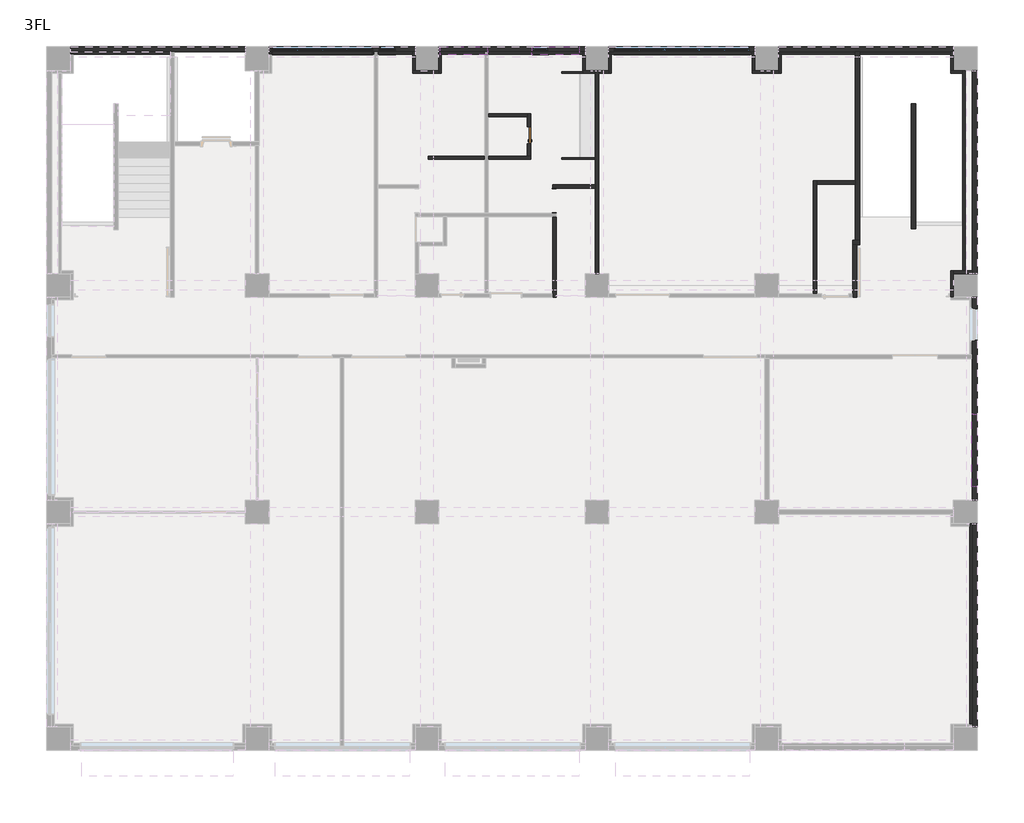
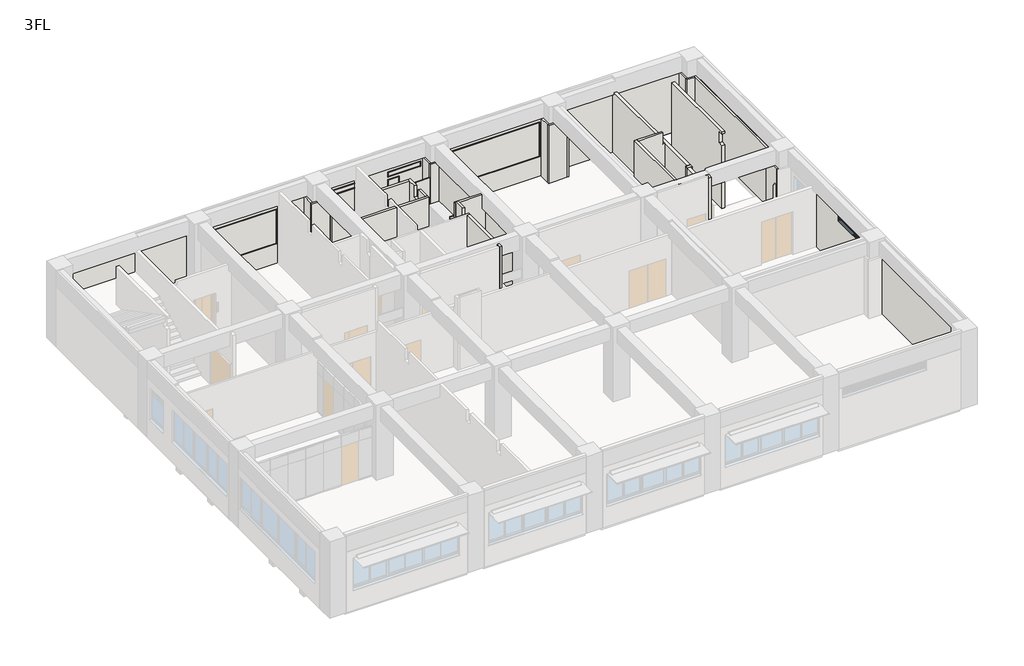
# One storey, part 3 of 6: 38 walls, 7 windows, 2 doors.
"""IFC4 building model written with IfcOpenShell, lengths in millimetres."""

from ifc_helpers import new_model, si_unit, frame, origin, place, context, project, spatial, polyline, outline, extrude, faceted_brep, transform, mapped, element, save
from components import door_cb1f44da, door_14d6dc4f, ag_06_22dadb70, ag_07_7ad97628, aw4_4580bdda, aw5_68b6661f, aw7_750fac0c, aw9_1008a672

model = new_model("IFC4")

# Units and contexts
model_context = context("Model", 3, world=origin())
ifc_project = project(units=[si_unit("LENGTHUNIT", "METRE", prefix="MILLI")], contexts=[model_context])

# Site, building, storey
site = spatial("IfcSite", under=ifc_project)
building = spatial("IfcBuilding", under=site)
storey = spatial("IfcBuildingStorey", under=building, Name="3FL", Elevation=8200.0)

# Doors
placement = place(None, origin())
door_shape = door_cb1f44da(model_context)
element("IfcDoor", 1, ObjectType="営_片開き扉 : SD7 600*2000", at=placement, inside=storey, context=model_context, shape_type="MappedRepresentation", body=[
    mapped(door_shape, transform((16600.0, 21310.0, 8200.0), x_axis=(0.0, 1.0, 0.0), y_axis=(-1.0, 0.0, 0.0), z_axis=(0.0, 0.0, 1.0))),
])
door_2_shape = door_14d6dc4f(model_context)
element("IfcDoor", 2, ObjectType="営_三方枠 : S1_850*2000", at=placement, inside=storey, context=model_context, shape_type="MappedRepresentation", body=[
    mapped(door_2_shape, transform((17500.0, 18990.25, 8200.0), x_axis=(0.0, 1.0, 0.0), y_axis=(-1.0, 0.0, 0.0), z_axis=(0.0, 0.0, 1.0))),
])

# Walls
element("IfcWall", 3, ObjectType="(外壁)RC150+20", at=placement, inside=storey, context=model_context, shape_type="Brep", body=[
    faceted_brep([(7420.0, 24250.0, 8100.0), (12580.0, 24250.0, 8100.0), (12580.0, 24250.0, 11350.0), (7420.0, 24250.0, 11350.0), (11310.0, 24250.0, 9265.0), (11310.0, 24250.0, 11120.0), (11890.0, 24250.0, 11120.0), (11890.0, 24250.0, 9265.0), (11090.0, 24250.0, 11120.0), (11090.0, 24250.0, 9265.0), (7510.0, 24250.0, 9265.0), (7510.0, 24250.0, 11120.0), (12580.0, 24420.0, 8100.0), (7420.0, 24420.0, 8100.0), (7420.0, 24420.0, 11350.0), (12580.0, 24420.0, 11350.0), (11340.0, 24420.0, 9175.0), (11860.0, 24420.0, 9175.0), (11860.0, 24420.0, 11095.0), (11340.0, 24420.0, 11095.0), (7540.0, 24420.0, 9175.0), (11060.0, 24420.0, 9175.0), (11060.0, 24420.0, 11095.0), (7540.0, 24420.0, 11095.0), (11310.0, 24290.0, 11120.0), (11310.0, 24290.0, 9265.0), (11890.0, 24290.0, 9265.0), (11890.0, 24290.0, 11120.0), (11880.0, 24290.0, 9265.0), (11320.0, 24290.0, 9265.0), (11320.0, 24290.0, 11115.0), (11880.0, 24290.0, 11115.0), (11320.0, 24290.0, 9195.0), (11320.0, 24360.0, 9184.2307692), (11320.0, 24360.0, 11115.0), (11880.0, 24360.0, 11115.0), (11880.0, 24360.0, 9184.2307692), (11880.0, 24290.0, 9195.0), (11860.0, 24360.0, 9184.2307692), (11340.0, 24360.0, 9184.2307692), (11340.0, 24360.0, 11095.0), (11860.0, 24360.0, 11095.0), (11090.0, 24290.0, 11120.0), (11090.0, 24290.0, 9265.0), (7510.0, 24290.0, 9265.0), (7510.0, 24290.0, 11120.0), (11080.0, 24290.0, 9265.0), (7520.0, 24290.0, 9265.0), (7520.0, 24290.0, 11115.0), (11080.0, 24290.0, 11115.0), (11080.0, 24360.0, 11115.0), (11080.0, 24360.0, 9184.2307692), (11080.0, 24290.0, 9195.0), (7520.0, 24290.0, 9195.0), (7520.0, 24360.0, 9184.2307692), (7520.0, 24360.0, 11115.0), (11060.0, 24360.0, 9184.2307692), (7540.0, 24360.0, 9184.2307692), (7540.0, 24360.0, 11095.0), (11060.0, 24360.0, 11095.0)], [[[0, 1, 2, 3], [4, 5, 6, 7], [8, 9, 10, 11]], [[12, 13, 14, 15], [16, 17, 18, 19], [20, 21, 22, 23]], [[0, 13, 12, 1]], [[24, 5, 4, 25]], [[26, 7, 6, 27]], [[25, 4, 7, 26, 28, 29]], [[24, 25, 29, 30, 31, 28, 26, 27]], [[5, 24, 27, 6]], [[30, 29, 32, 33, 34]], [[28, 31, 35, 36, 37]], [[33, 32, 37, 36, 38, 17, 16, 39]], [[34, 33, 39, 40, 41, 38, 36, 35]], [[31, 30, 34, 35]], [[29, 28, 37, 32]], [[39, 16, 19, 40]], [[17, 38, 41, 18]], [[41, 40, 19, 18]], [[42, 43, 9, 8]], [[44, 45, 11, 10]], [[9, 43, 46, 47, 44, 10]], [[43, 42, 45, 44, 47, 48, 49, 46]], [[42, 8, 11, 45]], [[46, 49, 50, 51, 52]], [[48, 47, 53, 54, 55]], [[52, 51, 56, 21, 20, 57, 54, 53]], [[51, 50, 55, 54, 57, 58, 59, 56]], [[49, 48, 55, 50]], [[47, 46, 52, 53]], [[21, 56, 59, 22]], [[57, 20, 23, 58]], [[59, 58, 23, 22]], [[13, 0, 3, 14]], [[1, 12, 15, 2]], [[3, 2, 15, 14]]]),
    faceted_brep([(13420.0, 24250.0, 8100.0), (18580.0, 24250.0, 8100.0), (18580.0, 24250.0, 11350.0), (13420.0, 24250.0, 11350.0), (16710.0, 24250.0, 9265.0), (16710.0, 24250.0, 10720.0), (17290.0, 24250.0, 10720.0), (17290.0, 24250.0, 9265.0), (18380.0, 24250.0, 11135.0), (18380.0, 24250.0, 10865.0), (16700.0, 24250.0, 10865.0), (16700.0, 24250.0, 11135.0), (15140.0, 24250.0, 11135.0), (15140.0, 24250.0, 10865.0), (13460.0, 24250.0, 10865.0), (13460.0, 24250.0, 11135.0), (18580.0, 24420.0, 8100.0), (13420.0, 24420.0, 8100.0), (13420.0, 24420.0, 11350.0), (18580.0, 24420.0, 11350.0), (16740.0, 24420.0, 9175.0), (17260.0, 24420.0, 9175.0), (17260.0, 24420.0, 10695.0), (16740.0, 24420.0, 10695.0), (16730.0, 24420.0, 10775.0), (18350.0, 24420.0, 10775.0), (18350.0, 24420.0, 11110.0), (16730.0, 24420.0, 11110.0), (13490.0, 24420.0, 10775.0), (15110.0, 24420.0, 10775.0), (15110.0, 24420.0, 11110.0), (13490.0, 24420.0, 11110.0), (16710.0, 24290.0, 10720.0), (16710.0, 24290.0, 9265.0), (17290.0, 24290.0, 9265.0), (17290.0, 24290.0, 10720.0), (17280.0, 24290.0, 9265.0), (16720.0, 24290.0, 9265.0), (16720.0, 24290.0, 10715.0), (17280.0, 24290.0, 10715.0), (16720.0, 24290.0, 9195.0), (16720.0, 24360.0, 9184.2307692), (16720.0, 24360.0, 10715.0), (17280.0, 24360.0, 10715.0), (17280.0, 24360.0, 9184.2307692), (17280.0, 24290.0, 9195.0), (17260.0, 24360.0, 9184.2307692), (16740.0, 24360.0, 9184.2307692), (16740.0, 24360.0, 10695.0), (17260.0, 24360.0, 10695.0), (18380.0, 24290.0, 11135.0), (18380.0, 24290.0, 10865.0), (16700.0, 24290.0, 10865.0), (16700.0, 24290.0, 11135.0), (18370.0, 24290.0, 10865.0), (16710.0, 24290.0, 10865.0), (16710.0, 24290.0, 11130.0), (18370.0, 24290.0, 11130.0), (18370.0, 24360.0, 11130.0), (18370.0, 24360.0, 10784.2307692), (18370.0, 24290.0, 10795.0), (16710.0, 24290.0, 10795.0), (16710.0, 24360.0, 10784.2307692), (16710.0, 24360.0, 11130.0), (18350.0, 24360.0, 10784.2307692), (16730.0, 24360.0, 10784.2307692), (16730.0, 24360.0, 11110.0), (18350.0, 24360.0, 11110.0), (15140.0, 24290.0, 11135.0), (15140.0, 24290.0, 10865.0), (13460.0, 24290.0, 10865.0), (13460.0, 24290.0, 11135.0), (15130.0, 24290.0, 10865.0), (13470.0, 24290.0, 10865.0), (13470.0, 24290.0, 11130.0), (15130.0, 24290.0, 11130.0), (15130.0, 24360.0, 11130.0), (15130.0, 24360.0, 10784.2307692), (15130.0, 24290.0, 10795.0), (13470.0, 24290.0, 10795.0), (13470.0, 24360.0, 10784.2307692), (13470.0, 24360.0, 11130.0), (15110.0, 24360.0, 10784.2307692), (13490.0, 24360.0, 10784.2307692), (13490.0, 24360.0, 11110.0), (15110.0, 24360.0, 11110.0)], [[[0, 1, 2, 3], [4, 5, 6, 7], [8, 9, 10, 11], [12, 13, 14, 15]], [[16, 17, 18, 19], [20, 21, 22, 23], [24, 25, 26, 27], [28, 29, 30, 31]], [[0, 17, 16, 1]], [[32, 5, 4, 33]], [[34, 7, 6, 35]], [[33, 4, 7, 34, 36, 37]], [[32, 33, 37, 38, 39, 36, 34, 35]], [[5, 32, 35, 6]], [[38, 37, 40, 41, 42]], [[36, 39, 43, 44, 45]], [[41, 40, 45, 44, 46, 21, 20, 47]], [[42, 41, 47, 48, 49, 46, 44, 43]], [[39, 38, 42, 43]], [[37, 36, 45, 40]], [[47, 20, 23, 48]], [[21, 46, 49, 22]], [[49, 48, 23, 22]], [[50, 51, 9, 8]], [[52, 53, 11, 10]], [[51, 54, 55, 52, 10, 9]], [[51, 50, 53, 52, 55, 56, 57, 54]], [[53, 50, 8, 11]], [[54, 57, 58, 59, 60]], [[56, 55, 61, 62, 63]], [[60, 59, 64, 25, 24, 65, 62, 61]], [[59, 58, 63, 62, 65, 66, 67, 64]], [[57, 56, 63, 58]], [[55, 54, 60, 61]], [[25, 64, 67, 26]], [[65, 24, 27, 66]], [[67, 66, 27, 26]], [[68, 69, 13, 12]], [[70, 71, 15, 14]], [[13, 69, 72, 73, 70, 14]], [[69, 68, 71, 70, 73, 74, 75, 72]], [[68, 12, 15, 71]], [[72, 75, 76, 77, 78]], [[74, 73, 79, 80, 81]], [[78, 77, 82, 29, 28, 83, 80, 79]], [[77, 76, 81, 80, 83, 84, 85, 82]], [[75, 74, 81, 76]], [[73, 72, 78, 79]], [[29, 82, 85, 30]], [[83, 28, 31, 84]], [[85, 84, 31, 30]], [[17, 0, 3, 18]], [[1, 16, 19, 2]], [[3, 2, 19, 18]]]),
    faceted_brep([(19420.0, 24250.0, 8100.0), (24580.0, 24250.0, 8100.0), (24580.0, 24250.0, 11350.0), (19420.0, 24250.0, 11350.0), (24410.0, 24250.0, 11120.0), (24410.0, 24250.0, 9265.0), (19590.0, 24250.0, 9265.0), (19590.0, 24250.0, 11120.0), (24580.0, 24420.0, 8100.0), (19420.0, 24420.0, 8100.0), (19420.0, 24420.0, 11350.0), (24580.0, 24420.0, 11350.0), (19620.0, 24420.0, 9175.0), (24380.0, 24420.0, 9175.0), (24380.0, 24420.0, 11095.0), (19620.0, 24420.0, 11095.0), (24410.0, 24290.0, 11120.0), (24410.0, 24290.0, 9265.0), (19590.0, 24290.0, 9265.0), (19590.0, 24290.0, 11120.0), (24400.0, 24290.0, 9265.0), (19600.0, 24290.0, 9265.0), (19600.0, 24290.0, 11115.0), (24400.0, 24290.0, 11115.0), (24400.0, 24360.0, 11115.0), (24400.0, 24360.0, 9184.2307692), (24400.0, 24290.0, 9195.0), (19600.0, 24290.0, 9195.0), (19600.0, 24360.0, 9184.2307692), (19600.0, 24360.0, 11115.0), (24380.0, 24360.0, 9184.2307692), (19620.0, 24360.0, 9184.2307692), (19620.0, 24360.0, 11095.0), (24380.0, 24360.0, 11095.0)], [[[0, 1, 2, 3], [4, 5, 6, 7]], [[8, 9, 10, 11], [12, 13, 14, 15]], [[0, 9, 8, 1]], [[16, 17, 5, 4]], [[18, 19, 7, 6]], [[5, 17, 20, 21, 18, 6]], [[17, 16, 19, 18, 21, 22, 23, 20]], [[16, 4, 7, 19]], [[20, 23, 24, 25, 26]], [[22, 21, 27, 28, 29]], [[26, 25, 30, 13, 12, 31, 28, 27]], [[25, 24, 29, 28, 31, 32, 33, 30]], [[23, 22, 29, 24]], [[21, 20, 26, 27]], [[13, 30, 33, 14]], [[31, 12, 15, 32]], [[33, 32, 15, 14]], [[9, 0, 3, 10]], [[1, 8, 11, 2]], [[3, 2, 11, 10]]]),
    faceted_brep([(25420.0, 24250.0, 8100.0), (31580.0, 24250.0, 8100.0), (31580.0, 24250.0, 11350.0), (25420.0, 24250.0, 11350.0), (31580.0, 24420.0, 8100.0), (25420.0, 24420.0, 8100.0), (25420.0, 24420.0, 11350.0), (31580.0, 24420.0, 11350.0)], [[[0, 1, 2, 3]], [[4, 5, 6, 7]], [[0, 5, 4, 1]], [[5, 0, 3, 6]], [[1, 4, 7, 2]], [[3, 2, 7, 6]]]),
    faceted_brep([(420.0, 24250.0, 8100.0), (6580.0, 24250.0, 8100.0), (6580.0, 24250.0, 11350.0), (420.0, 24250.0, 11350.0), (6580.0, 24420.0, 8100.0), (420.0, 24420.0, 8100.0), (420.0, 24420.0, 11350.0), (6580.0, 24420.0, 11350.0)], [[[0, 1, 2, 3]], [[4, 5, 6, 7]], [[4, 1, 0, 5]], [[1, 4, 7, 2]], [[5, 0, 3, 6]], [[3, 2, 7, 6]]]),
])
element("IfcWall", 4, ObjectType="(外壁)RC150+20", at=placement, inside=storey, context=model_context, shape_type="Brep", body=[
    faceted_brep([(32250.0, 7580.0, 8100.0), (32250.0, 420.0, 8100.0), (32250.0, 420.0, 11300.0), (32250.0, 7580.0, 11300.0), (32420.0, 420.0, 8100.0), (32420.0, 7580.0, 8100.0), (32420.0, 7580.0, 11300.0), (32420.0, 420.0, 11300.0), (32325.0, 420.0, 8100.0), (32325.0, 7580.0, 8100.0)], [[[0, 1, 2, 3]], [[4, 5, 6, 7]], [[4, 8, 1, 0, 9, 5]], [[1, 8, 4, 7, 2]], [[5, 9, 0, 3, 6]], [[3, 2, 7, 6]]]),
    faceted_brep([(32250.0, 15580.0, 8100.0), (32250.0, 8420.0, 8100.0), (32250.0, 8420.0, 11300.0), (32250.0, 15580.0, 11300.0), (32250.0, 14027.5, 10920.0), (32250.0, 14027.5, 9265.0), (32250.0, 15207.5, 9265.0), (32250.0, 15207.5, 10920.0), (32250.0, 8890.0, 11285.0), (32250.0, 8890.0, 10765.0), (32250.0, 11470.0, 10765.0), (32250.0, 11470.0, 11285.0), (32420.0, 8420.0, 8100.0), (32420.0, 15580.0, 8100.0), (32420.0, 15580.0, 11300.0), (32420.0, 8420.0, 11300.0), (32420.0, 15177.5, 9175.0), (32420.0, 14057.5, 9175.0), (32420.0, 14057.5, 10895.0), (32420.0, 15177.5, 10895.0), (32420.0, 11440.0, 10675.0), (32420.0, 8920.0, 10675.0), (32420.0, 8920.0, 11260.0), (32420.0, 11440.0, 11260.0), (32325.0, 8420.0, 8100.0), (32325.0, 15580.0, 8100.0), (32290.0, 14027.5, 10920.0), (32290.0, 14027.5, 9265.0), (32290.0, 15207.5, 9265.0), (32290.0, 15207.5, 10920.0), (32290.0, 14037.5, 9265.0), (32290.0, 15197.5, 9265.0), (32290.0, 15197.5, 10915.0), (32290.0, 14037.5, 10915.0), (32360.0, 14037.5, 10915.0), (32360.0, 14037.5, 9184.2307692), (32290.0, 14037.5, 9195.0), (32290.0, 15197.5, 9195.0), (32360.0, 15197.5, 9184.2307692), (32360.0, 15197.5, 10915.0), (32360.0, 14057.5, 9184.2307692), (32360.0, 15177.5, 9184.2307692), (32360.0, 15177.5, 10895.0), (32360.0, 14057.5, 10895.0), (32290.0, 8890.0, 11285.0), (32290.0, 8890.0, 10765.0), (32290.0, 11470.0, 10765.0), (32290.0, 11470.0, 11285.0), (32290.0, 8900.0, 10765.0), (32290.0, 11460.0, 10765.0), (32290.0, 11460.0, 11280.0), (32290.0, 8900.0, 11280.0), (32360.0, 8900.0, 11280.0), (32360.0, 8900.0, 10684.2307692), (32290.0, 8900.0, 10695.0), (32290.0, 11460.0, 10695.0), (32360.0, 11460.0, 10684.2307692), (32360.0, 11460.0, 11280.0), (32360.0, 8920.0, 10684.2307692), (32360.0, 11440.0, 10684.2307692), (32360.0, 11440.0, 11260.0), (32360.0, 8920.0, 11260.0)], [[[0, 1, 2, 3], [4, 5, 6, 7], [8, 9, 10, 11]], [[12, 13, 14, 15], [16, 17, 18, 19], [20, 21, 22, 23]], [[12, 24, 1, 0, 25, 13]], [[26, 27, 5, 4]], [[28, 29, 7, 6]], [[5, 27, 30, 31, 28, 6]], [[27, 26, 29, 28, 31, 32, 33, 30]], [[26, 4, 7, 29]], [[30, 33, 34, 35, 36]], [[32, 31, 37, 38, 39]], [[36, 35, 40, 17, 16, 41, 38, 37]], [[35, 34, 39, 38, 41, 42, 43, 40]], [[33, 32, 39, 34]], [[31, 30, 36, 37]], [[17, 40, 43, 18]], [[41, 16, 19, 42]], [[43, 42, 19, 18]], [[1, 24, 12, 15, 2]], [[13, 25, 0, 3, 14]], [[3, 2, 15, 14]], [[44, 45, 9, 8]], [[46, 47, 11, 10]], [[9, 45, 48, 49, 46, 10]], [[45, 44, 47, 46, 49, 50, 51, 48]], [[44, 8, 11, 47]], [[48, 51, 52, 53, 54]], [[50, 49, 55, 56, 57]], [[54, 53, 58, 21, 20, 59, 56, 55]], [[53, 52, 57, 56, 59, 60, 61, 58]], [[51, 50, 57, 52]], [[49, 48, 54, 55]], [[21, 58, 61, 22]], [[59, 20, 23, 60]], [[61, 60, 23, 22]]]),
    faceted_brep([(32250.0, 23580.0, 8100.0), (32250.0, 16420.0, 8100.0), (32250.0, 16420.0, 11300.0), (32250.0, 23580.0, 11300.0), (32420.0, 16420.0, 8100.0), (32420.0, 23580.0, 8100.0), (32420.0, 23580.0, 11300.0), (32420.0, 16420.0, 11300.0), (32325.0, 16420.0, 8100.0), (32325.0, 23580.0, 8100.0)], [[[0, 1, 2, 3]], [[4, 5, 6, 7]], [[4, 8, 1, 0, 9, 5]], [[1, 8, 4, 7, 2]], [[5, 9, 0, 3, 6]], [[3, 2, 7, 6]]]),
])
element("IfcWall", 5, ObjectType="(内壁)W4", at=placement, inside=storey, context=model_context, shape_type="Brep", body=[
    faceted_brep([(18940.0, 23580.0, 8200.0), (18940.0, 23490.0, 8200.0), (18940.0, 19550.0, 8200.0), (18940.0, 19430.0, 8200.0), (18940.0, 16420.0, 8200.0), (18940.0, 16420.0, 11300.0), (18940.0, 19430.0, 11300.0), (18940.0, 19550.0, 11300.0), (18940.0, 23490.0, 11300.0), (18940.0, 23580.0, 11300.0), (19060.0, 16420.0, 8200.0), (19060.0, 23490.0, 8200.0), (19060.0, 23580.0, 8200.0), (19060.0, 23580.0, 11300.0), (19060.0, 23490.0, 11300.0), (19060.0, 16420.0, 11300.0)], [[[0, 1, 2, 3, 4, 5, 6, 7, 8, 9]], [[10, 11, 12, 13, 14, 15]], [[10, 4, 3, 2, 1, 0, 12, 11]], [[4, 10, 15, 5]], [[12, 0, 9, 13]], [[9, 8, 7, 6, 5, 15, 14, 13]]]),
])
element("IfcWall", 6, ObjectType="(内壁)W3", at=placement, inside=storey, context=model_context, shape_type="Brep", body=[
    faceted_brep([(26640.0, 19695.0, 8200.0), (26640.0, 15700.0, 8200.0), (26640.0, 15700.0, 12050.0), (26640.0, 15825.0, 12050.0), (26640.0, 15825.0, 11350.0), (26640.0, 16175.0, 11350.0), (26640.0, 16175.0, 12050.0), (26640.0, 19695.0, 12050.0), (26760.0, 15700.0, 8200.0), (26760.0, 19575.0, 8200.0), (26760.0, 19695.0, 8200.0), (26760.0, 19695.0, 12050.0), (26760.0, 19575.0, 12050.0), (26760.0, 16175.0, 12050.0), (26760.0, 16175.0, 11350.0), (26760.0, 15825.0, 11350.0), (26760.0, 15825.0, 12050.0), (26760.0, 15700.0, 12050.0)], [[[0, 1, 2, 3, 4, 5, 6, 7]], [[8, 9, 10, 11, 12, 13, 14, 15, 16, 17]], [[1, 0, 10, 9, 8]], [[11, 7, 6, 13, 12]], [[2, 17, 16, 3]], [[0, 7, 11, 10]], [[2, 1, 8, 17]], [[15, 4, 3, 16]], [[4, 15, 14, 5]], [[5, 14, 13, 6]]]),
])
element("IfcWall", 7, ObjectType="(内壁)W3", at=placement, inside=storey, context=model_context, shape_type="SweptSolid", body=[
    extrude(outline(polyline([(8200.0, 26760.0), (8200.0, 28125.0), (11450.0, 28125.0), (11450.0, 28024.0), (12050.0, 28024.0), (12050.0, 26760.0), (8200.0, 26760.0)])), frame((0.0, 19575.0, 0.0), z_axis=(0.0, 1.0, 0.0), x_axis=(0.0, 0.0, 1.0)), (0.0, 0.0, 1.0), 120.0),
])
element("IfcWall", 8, ObjectType="(内壁)150_RC", at=placement, inside=storey, context=model_context, shape_type="Brep", body=[
    faceted_brep([(28175.0, 15580.0, 8200.0), (28175.0, 17445.0, 8200.0), (28175.0, 17445.0, 11450.0), (28175.0, 16175.0, 11450.0), (28175.0, 16175.0, 11350.0), (28175.0, 15825.0, 11350.0), (28175.0, 15825.0, 11450.0), (28175.0, 15825.0, 12050.0), (28175.0, 15580.0, 12050.0), (28025.0, 17445.0, 8200.0), (28025.0, 15700.0, 8200.0), (28025.0, 15580.0, 8200.0), (28025.0, 15580.0, 12050.0), (28025.0, 15825.0, 12050.0), (28025.0, 15825.0, 11450.0), (28025.0, 15825.0, 11350.0), (28025.0, 16175.0, 11350.0), (28025.0, 16175.0, 11450.0), (28025.0, 17445.0, 11450.0)], [[[0, 1, 2, 3, 4, 5, 6, 7, 8]], [[9, 10, 11, 12, 13, 14, 15, 16, 17, 18]], [[1, 0, 11, 10, 9]], [[8, 7, 13, 12]], [[1, 9, 18, 2]], [[5, 15, 14, 13, 7, 6]], [[15, 5, 4, 16]], [[16, 4, 3, 17]], [[3, 2, 18, 17]], [[0, 8, 12, 11]]]),
])
element("IfcWall", 9, ObjectType="(内壁)150_RC", at=placement, inside=storey, context=model_context, shape_type="Brep", body=[
    faceted_brep([(28025.0, 17445.0, 8200.0), (28175.0, 17445.0, 8200.0), (28275.0, 17445.0, 8200.0), (28275.0, 17445.0, 11450.0), (28175.0, 17445.0, 11450.0), (28025.0, 17445.0, 11450.0), (28275.0, 17595.0, 8200.0), (28125.0, 17595.0, 8200.0), (28025.0, 17595.0, 8200.0), (28025.0, 17595.0, 11450.0), (28125.0, 17595.0, 11450.0), (28275.0, 17595.0, 11450.0)], [[[0, 1, 2, 3, 4, 5]], [[6, 7, 8, 9, 10, 11]], [[2, 1, 0, 8, 7, 6]], [[8, 0, 5, 9]], [[2, 6, 11, 3]], [[5, 4, 3, 11, 10, 9]]]),
])
element("IfcWall", 10, ObjectType="(内壁)150_RC", at=placement, inside=storey, context=model_context, shape_type="Brep", body=[
    faceted_brep([(28275.0, 17595.0, 8200.0), (28275.0, 24160.0, 8200.0), (28275.0, 24250.0, 8200.0), (28275.0, 24250.0, 11350.0), (28275.0, 24160.0, 11350.0), (28275.0, 24050.0, 11350.0), (28275.0, 24050.0, 11450.0), (28275.0, 17595.0, 11450.0), (28125.0, 24250.0, 8200.0), (28125.0, 24160.0, 8200.0), (28125.0, 19695.0, 8200.0), (28125.0, 19575.0, 8200.0), (28125.0, 17595.0, 8200.0), (28125.0, 17595.0, 11450.0), (28125.0, 19575.0, 11450.0), (28125.0, 19695.0, 11450.0), (28125.0, 24050.0, 11450.0), (28125.0, 24050.0, 11350.0), (28125.0, 24160.0, 11350.0), (28125.0, 24250.0, 11350.0)], [[[0, 1, 2, 3, 4, 5, 6, 7]], [[8, 9, 10, 11, 12, 13, 14, 15, 16, 17, 18, 19]], [[2, 1, 0, 12, 11, 10, 9, 8]], [[13, 7, 6, 16, 15, 14]], [[0, 7, 13, 12]], [[2, 8, 19, 3]], [[5, 17, 16, 6]], [[17, 5, 4, 3, 19, 18]]]),
])
element("IfcWall", 11, ObjectType="(内壁)W4", at=placement, inside=storey, context=model_context, shape_type="Brep", body=[
    faceted_brep([(17440.0, 18430.0, 8200.0), (17440.0, 15700.0, 8200.0), (17440.0, 15580.0, 8200.0), (17440.0, 15580.0, 12050.0), (17440.0, 15700.0, 12050.0), (17440.0, 15825.0, 12050.0), (17440.0, 15825.0, 11350.0), (17440.0, 16175.0, 11350.0), (17440.0, 16175.0, 12050.0), (17440.0, 18430.0, 12050.0), (17560.0, 15580.0, 8200.0), (17560.0, 18430.0, 8200.0), (17560.0, 18430.0, 12050.0), (17560.0, 16175.0, 12050.0), (17560.0, 16175.0, 11350.0), (17560.0, 15825.0, 11350.0), (17560.0, 15825.0, 12050.0), (17560.0, 15580.0, 12050.0)], [[[0, 1, 2, 3, 4, 5, 6, 7, 8, 9]], [[10, 11, 12, 13, 14, 15, 16, 17]], [[2, 1, 0, 11, 10]], [[12, 9, 8, 13]], [[3, 17, 16, 5, 4]], [[0, 9, 12, 11]], [[15, 6, 5, 16]], [[6, 15, 14, 7]], [[7, 14, 13, 8]], [[3, 2, 10, 17]]]),
])
element("IfcWall", 12, ObjectType="(内壁)W4", at=placement, inside=storey, context=model_context, shape_type="SweptSolid", body=[
    extrude(outline(polyline([(8200.0, 13040.0), (8200.0, 15040.0), (12050.0, 15040.0), (12050.0, 13225.0), (11300.0, 13225.0), (11300.0, 13040.0), (8200.0, 13040.0)])), frame((0.0, 20450.0, 0.0), z_axis=(0.0, 1.0, 0.0), x_axis=(0.0, 0.0, 1.0)), (0.0, 0.0, 1.0), 120.0),
])
element("IfcWall", 13, ObjectType="(内壁)W3", at=placement, inside=storey, context=model_context, shape_type="Brep", body=[
    faceted_brep([(16660.0, 20570.0, 12050.0), (16660.0, 20570.0, 8200.0), (16660.0, 21010.0, 8200.0), (16660.0, 21010.0, 10200.0), (16660.0, 21610.0, 10200.0), (16660.0, 21610.0, 8200.0), (16660.0, 22070.0, 8200.0), (16660.0, 22070.0, 12050.0), (16660.0, 21515.0, 12050.0), (16660.0, 21515.0, 11450.0), (16660.0, 21165.0, 11450.0), (16660.0, 21165.0, 12050.0), (16540.0, 20570.0, 8200.0), (16540.0, 20570.0, 12050.0), (16540.0, 21165.0, 12050.0), (16540.0, 21165.0, 11450.0), (16540.0, 21515.0, 11450.0), (16540.0, 21515.0, 12050.0), (16540.0, 21950.0, 12050.0), (16540.0, 22070.0, 12050.0), (16540.0, 22070.0, 8200.0), (16540.0, 21950.0, 8200.0), (16540.0, 21610.0, 8200.0), (16540.0, 21610.0, 10200.0), (16540.0, 21010.0, 10200.0), (16540.0, 21010.0, 8200.0)], [[[0, 1, 2, 3, 4, 5, 6, 7, 8, 9, 10, 11]], [[12, 13, 14, 15, 16, 17, 18, 19, 20, 21, 22, 23, 24, 25]], [[1, 12, 25, 2]], [[20, 6, 5, 22, 21]], [[13, 0, 11, 14]], [[7, 19, 18, 17, 8]], [[1, 0, 13, 12]], [[7, 6, 20, 19]], [[25, 24, 3, 2]], [[23, 22, 5, 4]], [[24, 23, 4, 3]], [[10, 15, 14, 11]], [[15, 10, 9, 16]], [[16, 9, 8, 17]]]),
])
element("IfcWall", 14, ObjectType="(内壁)W3", at=placement, inside=storey, context=model_context, shape_type="SweptSolid", body=[
    extrude(outline(polyline([(15160.0, 22070.0), (16540.0, 22070.0), (16540.0, 21950.0), (15160.0, 21950.0), (15160.0, 22070.0)])), frame((0.0, 0.0, 8200.0), z_axis=(0.0, 0.0, 1.0), x_axis=(1.0, 0.0, 0.0)), (0.0, 0.0, 1.0), 3850.0),
])
element("IfcWall", 15, ObjectType="(内壁)W4", at=placement, inside=storey, context=model_context, shape_type="Brep", body=[
    faceted_brep([(17440.0, 19430.0, 8200.0), (17560.0, 19430.0, 8200.0), (18940.0, 19430.0, 8200.0), (18940.0, 19430.0, 11300.0), (18775.0, 19430.0, 11300.0), (18775.0, 19430.0, 12050.0), (17440.0, 19430.0, 12050.0), (18940.0, 19550.0, 8200.0), (17440.0, 19550.0, 8200.0), (17440.0, 19550.0, 12050.0), (18775.0, 19550.0, 12050.0), (18775.0, 19550.0, 11300.0), (18940.0, 19550.0, 11300.0)], [[[0, 1, 2, 3, 4, 5, 6]], [[7, 8, 9, 10, 11, 12]], [[2, 1, 0, 8, 7]], [[9, 6, 5, 10]], [[2, 7, 12, 3]], [[11, 4, 3, 12]], [[4, 11, 10, 5]], [[0, 6, 9, 8]]]),
])
element("IfcWall", 16, ObjectType="(内壁)120_部屋境界OFF", at=placement, inside=storey, context=model_context, shape_type="Brep", body=[
    faceted_brep([(17560.0, 18550.0, 8200.0), (17560.0, 18555.25, 8200.0), (17560.0, 18555.25, 10210.0), (17560.0, 19425.25, 10210.0), (17560.0, 19425.25, 8200.0), (17560.0, 19430.0, 8200.0), (17560.0, 19430.0, 12150.0), (17560.0, 18845.0, 12150.0), (17560.0, 18845.0, 11450.0), (17560.0, 18550.0, 11450.0), (17440.0, 18555.25, 8200.0), (17440.0, 18550.0, 8200.0), (17440.0, 18550.0, 11450.0), (17440.0, 18845.0, 11450.0), (17440.0, 18845.0, 12150.0), (17440.0, 19430.0, 12150.0), (17440.0, 19430.0, 12050.0), (17440.0, 19430.0, 8200.0), (17440.0, 19425.25, 8200.0), (17440.0, 19425.25, 10210.0), (17440.0, 18555.25, 10210.0)], [[[0, 1, 2, 3, 4, 5, 6, 7, 8, 9]], [[10, 11, 12, 13, 14, 15, 16, 17, 18, 19, 20]], [[11, 10, 1, 0]], [[5, 4, 18, 17]], [[6, 15, 14, 7]], [[11, 0, 9, 12]], [[6, 5, 17, 16, 15]], [[20, 2, 1, 10]], [[2, 20, 19, 3]], [[3, 19, 18, 4]], [[8, 13, 12, 9]], [[13, 8, 7, 14]]]),
])
element("IfcWall", 17, ObjectType="(内壁)W3", at=placement, inside=storey, context=model_context, shape_type="Brep", body=[
    faceted_brep([(15160.0, 20450.0, 8200.0), (16660.0, 20450.0, 8200.0), (16660.0, 20450.0, 12050.0), (15160.0, 20450.0, 12050.0), (15160.0, 20570.0, 8200.0), (15160.0, 20570.0, 12050.0), (16540.0, 20570.0, 12050.0), (16660.0, 20570.0, 12050.0), (16660.0, 20570.0, 8200.0), (16540.0, 20570.0, 8200.0)], [[[0, 1, 2, 3]], [[4, 5, 6, 7, 8, 9]], [[1, 0, 4, 9, 8]], [[3, 2, 7, 6, 5]], [[2, 1, 8, 7]], [[0, 3, 5, 4]]]),
])
element("IfcWall", 18, ObjectType="(内壁)ブース壁", at=placement, inside=storey, context=model_context, shape_type="SweptSolid", body=[
    extrude(outline(polyline([(17760.0, 20500.0), (18940.0, 20500.0), (18940.0, 20450.0), (17760.0, 20450.0), (17760.0, 20500.0)])), frame((0.0, 0.0, 8200.0), z_axis=(0.0, 0.0, 1.0), x_axis=(1.0, 0.0, 0.0)), (0.0, 0.0, 1.0), 2400.0),
])
element("IfcWall", 19, ObjectType="(内壁)ブース壁", at=placement, inside=storey, context=model_context, shape_type="SweptSolid", body=[
    extrude(outline(polyline([(17750.0, 23540.0), (18490.0, 23540.0), (18490.0, 23490.0), (17750.0, 23490.0), (17750.0, 23540.0)])), frame((0.0, 0.0, 8200.0), z_axis=(0.0, 0.0, 1.0), x_axis=(1.0, 0.0, 0.0)), (0.0, 0.0, 1.0), 2400.0),
])
element("IfcWall", 20, ObjectType="(内壁)150_RC", at=placement, inside=storey, context=model_context, shape_type="Brep", body=[
    faceted_brep([(30105.0, 22410.0, 8200.0), (30105.0, 18000.0, 8200.0), (30105.0, 18000.0, 11600.0), (30105.0, 18225.0, 11600.0), (30105.0, 18225.0, 12140.0), (30105.0, 18225.0, 12200.0), (30105.0, 18005.0, 12200.0), (30105.0, 18000.0, 12200.0), (30105.0, 18000.0, 12300.0), (30105.0, 22410.0, 12300.0), (30255.0, 18000.0, 8200.0), (30255.0, 22410.0, 8200.0), (30255.0, 22410.0, 12300.0), (30255.0, 18000.0, 12300.0), (30255.0, 18000.0, 12200.0), (30255.0, 18005.0, 12200.0), (30255.0, 18100.0, 12200.0), (30255.0, 18225.0, 12200.0), (30255.0, 18225.0, 11600.0), (30255.0, 18000.0, 11600.0)], [[[0, 1, 2, 3, 4, 5, 6, 7, 8, 9]], [[10, 11, 12, 13, 14, 15, 16, 17, 18, 19]], [[1, 0, 11, 10]], [[1, 10, 19, 2]], [[13, 8, 7, 14]], [[9, 8, 13, 12]], [[0, 9, 12, 11]], [[18, 3, 2, 19]], [[3, 18, 17, 5, 4]], [[5, 17, 16, 15, 14, 7, 6]]]),
])
element("IfcWall", 21, ObjectType="(内壁)W5", at=placement, inside=storey, context=model_context, shape_type="Brep", body=[
    faceted_brep([(31580.0, 15580.0, 8200.0), (31580.0, 16420.0, 8200.0), (31580.0, 16510.0, 8200.0), (31580.0, 16510.0, 11300.0), (31580.0, 16420.0, 11300.0), (31580.0, 15580.0, 11300.0), (31490.0, 15580.0, 8200.0), (31490.0, 15580.0, 11300.0), (31490.0, 16510.0, 11300.0), (31490.0, 16510.0, 8200.0)], [[[0, 1, 2, 3, 4, 5]], [[6, 7, 8, 9]], [[2, 1, 0, 6, 9]], [[5, 4, 3, 8, 7]], [[0, 5, 7, 6]], [[3, 2, 9, 8]]]),
])
element("IfcWall", 22, ObjectType="(内壁)W5", at=placement, inside=storey, context=model_context, shape_type="Brep", body=[
    faceted_brep([(31580.0, 16420.0, 8200.0), (32250.0, 16420.0, 8200.0), (32250.0, 16420.0, 11300.0), (31580.0, 16420.0, 11300.0), (31580.0, 16510.0, 8200.0), (31580.0, 16510.0, 11300.0), (31919.7329181, 16510.0, 11300.0), (32009.7329181, 16510.0, 11300.0), (32250.0, 16510.0, 11300.0), (32250.0, 16510.0, 8200.0), (32009.7329181, 16510.0, 8200.0), (31919.7329181, 16510.0, 8200.0)], [[[0, 1, 2, 3]], [[4, 5, 6, 7, 8, 9, 10, 11]], [[1, 0, 4, 11, 10, 9]], [[3, 2, 8, 7, 6, 5]], [[0, 3, 5, 4]], [[2, 1, 9, 8]]]),
])
element("IfcWall", 23, ObjectType="(内壁)W5", at=placement, inside=storey, context=model_context, shape_type="Brep", body=[
    faceted_brep([(32009.7329181, 16510.0, 8200.0), (32009.7329181, 23580.0, 8200.0), (32009.7329181, 23580.0, 11300.0), (32009.7329181, 16510.0, 11300.0), (31919.7329181, 16510.0, 8200.0), (31919.7329181, 16510.0, 11300.0), (31919.7329181, 23490.0, 11300.0), (31919.7329181, 23580.0, 11300.0), (31919.7329181, 23580.0, 8200.0), (31919.7329181, 23490.0, 8200.0)], [[[0, 1, 2, 3]], [[4, 5, 6, 7, 8, 9]], [[1, 0, 4, 9, 8]], [[3, 2, 7, 6, 5]], [[0, 3, 5, 4]], [[2, 1, 8, 7]]]),
])
element("IfcWall", 24, ObjectType="(内壁)W5", at=placement, inside=storey, context=model_context, shape_type="Brep", body=[
    faceted_brep([(31919.7329181, 23580.0, 8200.0), (31580.0, 23580.0, 8200.0), (31490.0, 23580.0, 8200.0), (31490.0, 23580.0, 11300.0), (31580.0, 23580.0, 11300.0), (31919.7329181, 23580.0, 11300.0), (31919.7329181, 23490.0, 8200.0), (31919.7329181, 23490.0, 11300.0), (31490.0, 23490.0, 11300.0), (31490.0, 23490.0, 8200.0)], [[[0, 1, 2, 3, 4, 5]], [[6, 7, 8, 9]], [[2, 1, 0, 6, 9]], [[5, 4, 3, 8, 7]], [[0, 5, 7, 6]], [[3, 2, 9, 8]]]),
])
element("IfcWall", 25, ObjectType="(内壁)W5", at=placement, inside=storey, context=model_context, shape_type="Brep", body=[
    faceted_brep([(31580.0, 23580.0, 8200.0), (31580.0, 24250.0, 8200.0), (31580.0, 24250.0, 11300.0), (31580.0, 23580.0, 11300.0), (31490.0, 23580.0, 8200.0), (31490.0, 23580.0, 11300.0), (31490.0, 24250.0, 11300.0), (31490.0, 24250.0, 8200.0), (31490.0, 24160.0, 8200.0)], [[[0, 1, 2, 3]], [[4, 5, 6, 7, 8]], [[1, 0, 4, 8, 7]], [[3, 2, 6, 5]], [[0, 3, 5, 4]], [[2, 1, 7, 6]]]),
])
element("IfcWall", 26, ObjectType="(内壁)W5", at=placement, inside=storey, context=model_context, shape_type="Brep", body=[
    faceted_brep([(31490.0, 24250.0, 11350.0), (31490.0, 24250.0, 11300.0), (31490.0, 24250.0, 8200.0), (28275.0, 24250.0, 8200.0), (28275.0, 24250.0, 11350.0), (31490.0, 24160.0, 8200.0), (31490.0, 24160.0, 11350.0), (28275.0, 24160.0, 11350.0), (28275.0, 24160.0, 8200.0)], [[[0, 1, 2, 3, 4]], [[5, 6, 7, 8]], [[2, 5, 8, 3]], [[6, 0, 4, 7]], [[2, 1, 0, 6, 5]], [[4, 3, 8, 7]]]),
    faceted_brep([(25420.0, 24250.0, 8200.0), (25420.0, 24250.0, 11350.0), (28125.0, 24250.0, 11350.0), (28125.0, 24250.0, 8200.0), (25420.0, 24160.0, 11350.0), (25420.0, 24160.0, 11300.0), (25420.0, 24160.0, 8200.0), (25510.0, 24160.0, 8200.0), (28125.0, 24160.0, 8200.0), (28125.0, 24160.0, 11350.0)], [[[0, 1, 2, 3]], [[4, 5, 6, 7, 8, 9]], [[6, 0, 3, 8, 7]], [[1, 4, 9, 2]], [[1, 0, 6, 5, 4]], [[3, 2, 9, 8]]]),
])
element("IfcWall", 27, ObjectType="(内壁)W5", at=placement, inside=storey, context=model_context, shape_type="Brep", body=[
    faceted_brep([(25420.0, 24160.0, 8200.0), (25420.0, 23580.0, 8200.0), (25420.0, 23490.0, 8200.0), (25420.0, 23490.0, 11300.0), (25420.0, 23580.0, 11300.0), (25420.0, 24160.0, 11300.0), (25510.0, 24160.0, 8200.0), (25510.0, 24160.0, 11300.0), (25510.0, 23490.0, 11300.0), (25510.0, 23490.0, 8200.0)], [[[0, 1, 2, 3, 4, 5]], [[6, 7, 8, 9]], [[2, 1, 0, 6, 9]], [[5, 4, 3, 8, 7]], [[0, 5, 7, 6]], [[3, 2, 9, 8]]]),
])
element("IfcWall", 28, ObjectType="(内壁)W5", at=placement, inside=storey, context=model_context, shape_type="Brep", body=[
    faceted_brep([(25420.0, 23580.0, 8200.0), (24580.0, 23580.0, 8200.0), (24490.0, 23580.0, 8200.0), (24490.0, 23580.0, 11300.0), (24580.0, 23580.0, 11300.0), (25420.0, 23580.0, 11300.0), (25420.0, 23490.0, 8200.0), (25420.0, 23490.0, 11300.0), (24490.0, 23490.0, 11300.0), (24490.0, 23490.0, 8200.0)], [[[0, 1, 2, 3, 4, 5]], [[6, 7, 8, 9]], [[2, 1, 0, 6, 9]], [[5, 4, 3, 8, 7]], [[0, 5, 7, 6]], [[3, 2, 9, 8]]]),
])
element("IfcWall", 29, ObjectType="(内壁)W5", at=placement, inside=storey, context=model_context, shape_type="Brep", body=[
    faceted_brep([(24580.0, 23580.0, 8200.0), (24580.0, 24250.0, 8200.0), (24580.0, 24250.0, 11300.0), (24580.0, 23580.0, 11300.0), (24490.0, 23580.0, 8200.0), (24490.0, 23580.0, 11300.0), (24490.0, 24160.0, 11300.0), (24490.0, 24250.0, 11300.0), (24490.0, 24250.0, 8200.0), (24490.0, 24160.0, 8200.0)], [[[0, 1, 2, 3]], [[4, 5, 6, 7, 8, 9]], [[1, 0, 4, 9, 8]], [[3, 2, 7, 6, 5]], [[0, 3, 5, 4]], [[2, 1, 8, 7]]]),
])
element("IfcWall", 30, ObjectType="(内壁)W5", at=placement, inside=storey, context=model_context, shape_type="Brep", body=[
    faceted_brep([(24490.0, 24250.0, 8200.0), (19420.0, 24250.0, 8200.0), (19420.0, 24250.0, 11300.0), (24490.0, 24250.0, 11300.0), (19420.0, 24160.0, 8200.0), (19510.0, 24160.0, 8200.0), (24490.0, 24160.0, 8200.0), (24490.0, 24160.0, 11300.0), (19510.0, 24160.0, 11300.0), (19420.0, 24160.0, 11300.0)], [[[0, 1, 2, 3]], [[4, 5, 6, 7, 8, 9]], [[1, 0, 6, 5, 4]], [[3, 2, 9, 8, 7]], [[0, 3, 7, 6]], [[2, 1, 4, 9]]]),
])
element("IfcWall", 31, ObjectType="(内壁)W5", at=placement, inside=storey, context=model_context, shape_type="Brep", body=[
    faceted_brep([(19420.0, 24160.0, 8200.0), (19420.0, 23580.0, 8200.0), (19420.0, 23490.0, 8200.0), (19420.0, 23490.0, 11300.0), (19420.0, 23580.0, 11300.0), (19420.0, 24160.0, 11300.0), (19510.0, 24160.0, 8200.0), (19510.0, 24160.0, 11300.0), (19510.0, 23490.0, 11300.0), (19510.0, 23490.0, 8200.0)], [[[0, 1, 2, 3, 4, 5]], [[6, 7, 8, 9]], [[2, 1, 0, 6, 9]], [[5, 4, 3, 8, 7]], [[0, 5, 7, 6]], [[3, 2, 9, 8]]]),
])
element("IfcWall", 32, ObjectType="(内壁)W5", at=placement, inside=storey, context=model_context, shape_type="Brep", body=[
    faceted_brep([(19420.0, 23580.0, 11300.0), (19420.0, 23580.0, 8200.0), (19060.0, 23580.0, 8200.0), (19060.0, 23580.0, 11300.0), (19420.0, 23490.0, 8200.0), (19420.0, 23490.0, 11300.0), (19060.0, 23490.0, 11300.0), (19060.0, 23490.0, 8200.0)], [[[0, 1, 2, 3]], [[4, 5, 6, 7]], [[1, 4, 7, 2]], [[5, 0, 3, 6]], [[1, 0, 5, 4]], [[3, 2, 7, 6]]]),
    faceted_brep([(18490.0, 23580.0, 8200.0), (18490.0, 23580.0, 11300.0), (18580.0, 23580.0, 11300.0), (18940.0, 23580.0, 11300.0), (18940.0, 23580.0, 8200.0), (18580.0, 23580.0, 8200.0), (18490.0, 23490.0, 11300.0), (18490.0, 23490.0, 8200.0), (18940.0, 23490.0, 8200.0), (18940.0, 23490.0, 11300.0)], [[[0, 1, 2, 3, 4, 5]], [[6, 7, 8, 9]], [[7, 0, 5, 4, 8]], [[1, 6, 9, 3, 2]], [[1, 0, 7, 6]], [[4, 3, 9, 8]]]),
])
element("IfcWall", 33, ObjectType="(内壁)W5", at=placement, inside=storey, context=model_context, shape_type="Brep", body=[
    faceted_brep([(18580.0, 23580.0, 8200.0), (18580.0, 24250.0, 8200.0), (18580.0, 24250.0, 11300.0), (18580.0, 23580.0, 11300.0), (18490.0, 23580.0, 8200.0), (18490.0, 23580.0, 11300.0), (18490.0, 24160.0, 11300.0), (18490.0, 24250.0, 11300.0), (18490.0, 24250.0, 8200.0), (18490.0, 24160.0, 8200.0)], [[[0, 1, 2, 3]], [[4, 5, 6, 7, 8, 9]], [[1, 0, 4, 9, 8]], [[3, 2, 7, 6, 5]], [[0, 3, 5, 4]], [[2, 1, 8, 7]]]),
])
element("IfcWall", 34, ObjectType="(内壁)W5", at=placement, inside=storey, context=model_context, shape_type="Brep", body=[
    faceted_brep([(18490.0, 24250.0, 11300.0), (18490.0, 24250.0, 8200.0), (15160.0, 24250.0, 8200.0), (15160.0, 24250.0, 11300.0), (18490.0, 24160.0, 8200.0), (18490.0, 24160.0, 11300.0), (15160.0, 24160.0, 11300.0), (15160.0, 24160.0, 8200.0)], [[[0, 1, 2, 3]], [[4, 5, 6, 7]], [[1, 4, 7, 2]], [[5, 0, 3, 6]], [[1, 0, 5, 4]], [[3, 2, 7, 6]]]),
    faceted_brep([(13420.0, 24250.0, 8200.0), (13420.0, 24250.0, 11300.0), (15040.0, 24250.0, 11300.0), (15040.0, 24250.0, 8200.0), (13420.0, 24160.0, 11300.0), (13420.0, 24160.0, 8200.0), (13510.0, 24160.0, 8200.0), (15040.0, 24160.0, 8200.0), (15040.0, 24160.0, 11300.0), (13510.0, 24160.0, 11300.0)], [[[0, 1, 2, 3]], [[4, 5, 6, 7, 8, 9]], [[5, 0, 3, 7, 6]], [[1, 4, 9, 8, 2]], [[1, 0, 5, 4]], [[3, 2, 8, 7]]]),
])
element("IfcWall", 35, ObjectType="(内壁)W5", at=placement, inside=storey, context=model_context, shape_type="Brep", body=[
    faceted_brep([(13420.0, 24160.0, 8200.0), (13420.0, 23580.0, 8200.0), (13420.0, 23490.0, 8200.0), (13420.0, 23490.0, 11300.0), (13420.0, 23580.0, 11300.0), (13420.0, 24160.0, 11300.0), (13510.0, 24160.0, 8200.0), (13510.0, 24160.0, 11300.0), (13510.0, 23490.0, 11300.0), (13510.0, 23490.0, 8200.0)], [[[0, 1, 2, 3, 4, 5]], [[6, 7, 8, 9]], [[2, 1, 0, 6, 9]], [[5, 4, 3, 8, 7]], [[0, 5, 7, 6]], [[3, 2, 9, 8]]]),
])
element("IfcWall", 36, ObjectType="(内壁)W5", at=placement, inside=storey, context=model_context, shape_type="Brep", body=[
    faceted_brep([(13420.0, 23580.0, 8200.0), (12580.0, 23580.0, 8200.0), (12490.0, 23580.0, 8200.0), (12490.0, 23580.0, 11300.0), (12580.0, 23580.0, 11300.0), (13420.0, 23580.0, 11300.0), (13420.0, 23490.0, 8200.0), (13420.0, 23490.0, 11300.0), (12490.0, 23490.0, 11300.0), (12490.0, 23490.0, 8200.0)], [[[0, 1, 2, 3, 4, 5]], [[6, 7, 8, 9]], [[2, 1, 0, 6, 9]], [[5, 4, 3, 8, 7]], [[0, 5, 7, 6]], [[3, 2, 9, 8]]]),
])
element("IfcWall", 37, ObjectType="(内壁)W5", at=placement, inside=storey, context=model_context, shape_type="Brep", body=[
    faceted_brep([(12580.0, 23580.0, 8200.0), (12580.0, 24250.0, 8200.0), (12580.0, 24250.0, 11300.0), (12580.0, 23580.0, 11300.0), (12490.0, 23580.0, 8200.0), (12490.0, 23580.0, 11300.0), (12490.0, 24160.6075581, 11300.0), (12490.0, 24250.0, 11300.0), (12490.0, 24250.0, 8200.0), (12490.0, 24160.6075581, 8200.0)], [[[0, 1, 2, 3]], [[4, 5, 6, 7, 8, 9]], [[1, 0, 4, 9, 8]], [[3, 2, 7, 6, 5]], [[0, 3, 5, 4]], [[2, 1, 8, 7]]]),
])
element("IfcWall", 38, ObjectType="(内壁)W5", at=placement, inside=storey, context=model_context, shape_type="Brep", body=[
    faceted_brep([(12490.0, 24250.6075581, 8200.0), (7420.0, 24250.6075581, 8200.0), (7420.0, 24250.6075581, 11300.0), (12490.0, 24250.6075581, 11300.0), (7420.0, 24160.6075581, 8200.0), (7510.0, 24160.6075581, 8200.0), (12490.0, 24160.6075581, 8200.0), (12490.0, 24160.6075581, 11300.0), (7510.0, 24160.6075581, 11300.0), (7420.0, 24160.6075581, 11300.0), (12490.0, 24250.0, 8200.0), (12490.0, 24250.0, 11300.0)], [[[0, 1, 2, 3]], [[4, 5, 6, 7, 8, 9]], [[1, 0, 10, 6, 5, 4]], [[3, 2, 9, 8, 7, 11]], [[2, 1, 4, 9]], [[0, 3, 11, 7, 6, 10]]]),
])
element("IfcWall", 39, ObjectType="(内壁)W5", at=placement, inside=storey, context=model_context, shape_type="Brep", body=[
    faceted_brep([(3925.0, 24250.0, 8200.0), (420.0, 24250.0, 8200.0), (420.0, 24250.0, 11300.0), (3925.0, 24250.0, 11300.0), (3925.0, 24160.0, 8200.0), (3925.0, 24160.0, 11300.0), (510.0, 24160.0, 11300.0), (420.0, 24160.0, 11300.0), (420.0, 24160.0, 8200.0), (510.0, 24160.0, 8200.0)], [[[0, 1, 2, 3]], [[4, 5, 6, 7, 8, 9]], [[1, 0, 4, 9, 8]], [[3, 2, 7, 6, 5]], [[2, 1, 8, 7]], [[0, 3, 5, 4]]]),
])
element("IfcWall", 40, ObjectType="(内壁)W5", at=placement, inside=storey, context=model_context, shape_type="Brep", body=[
    faceted_brep([(32250.0, 510.0, 8100.0), (32250.0, 7580.0, 8100.0), (32250.0, 7580.0, 11300.0), (32250.0, 510.0, 11300.0), (32160.0, 510.0, 8100.0), (32160.0, 510.0, 11300.0), (32160.0, 7490.0, 11300.0), (32160.0, 7580.0, 11300.0), (32160.0, 7580.0, 8100.0), (32160.0, 7490.0, 8100.0)], [[[0, 1, 2, 3]], [[4, 5, 6, 7, 8, 9]], [[1, 0, 4, 9, 8]], [[3, 2, 7, 6, 5]], [[0, 3, 5, 4]], [[2, 1, 8, 7]]]),
])

# Windows
ag_06_shape = ag_06_22dadb70(model_context)
element("IfcWindow", 41, ObjectType="営_単窓_ガラリ : AG-06", at=placement, inside=storey, context=model_context, shape_type="MappedRepresentation", body=[
    mapped(ag_06_shape, transform((32335.0, 10180.0, 9600.0), x_axis=(0.0, -1.0, 0.0), y_axis=(1.0, 0.0, 0.0), z_axis=(0.0, 0.0, 1.0))),
])
ag_07_shape = ag_07_7ad97628(model_context)
element("IfcWindow", 42, ObjectType="営_単窓_ガラリ : AG-07", at=placement, inside=storey, context=model_context, shape_type="MappedRepresentation", body=[
    mapped(ag_07_shape, transform((17540.0, 24335.0, 9700.0), x_axis=(1.0, 0.0, 0.0), y_axis=(0.0, 1.0, 0.0), z_axis=(0.0, 0.0, 1.0))),
])
element("IfcWindow", 43, ObjectType="営_単窓_ガラリ : AG-07", at=placement, inside=storey, context=model_context, shape_type="MappedRepresentation", body=[
    mapped(ag_07_shape, transform((14300.0, 24335.0, 9700.0), x_axis=(1.0, 0.0, 0.0), y_axis=(0.0, 1.0, 0.0), z_axis=(0.0, 0.0, 1.0))),
])
aw4_shape = aw4_4580bdda(model_context)
element("IfcWindow", 44, ObjectType="営_連段窓_引違い+FIX/ガラリ : AW4", at=placement, inside=storey, context=model_context, shape_type="MappedRepresentation", body=[
    mapped(aw4_shape, transform((22000.0, 24335.0, 8200.0), x_axis=(1.0, 0.0, 0.0), y_axis=(0.0, 1.0, 0.0), z_axis=(0.0, 0.0, 1.0))),
])
aw5_shape = aw5_68b6661f(model_context)
element("IfcWindow", 45, ObjectType="営_連段窓_引違い/ガラリ : AW5", at=placement, inside=storey, context=model_context, shape_type="MappedRepresentation", body=[
    mapped(aw5_shape, transform((9300.0, 24335.0, 8200.0), x_axis=(1.0, 0.0, 0.0), y_axis=(0.0, 1.0, 0.0), z_axis=(0.0, 0.0, 1.0))),
])
aw7_shape = aw7_750fac0c(model_context)
element("IfcWindow", 46, ObjectType="営_単窓_縦辷出し : AW7", at=placement, inside=storey, context=model_context, shape_type="MappedRepresentation", body=[
    mapped(aw7_shape, transform((17000.0, 24335.0, 8250.0), x_axis=(-1.0, 0.0, 0.0), y_axis=(0.0, -1.0, 0.0), z_axis=(0.0, 0.0, 1.0))),
])
aw9_shape = aw9_1008a672(model_context)
element("IfcWindow", 47, ObjectType="営_段窓_縦辷出し/ガラリ : AW9", at=placement, inside=storey, context=model_context, shape_type="MappedRepresentation", body=[
    mapped(aw9_shape, transform((11600.0, 24335.0, 8200.0), x_axis=(-1.0, 0.0, 0.0), y_axis=(0.0, -1.0, 0.0), z_axis=(0.0, 0.0, 1.0))),
])

save(model, "model.ifc")
